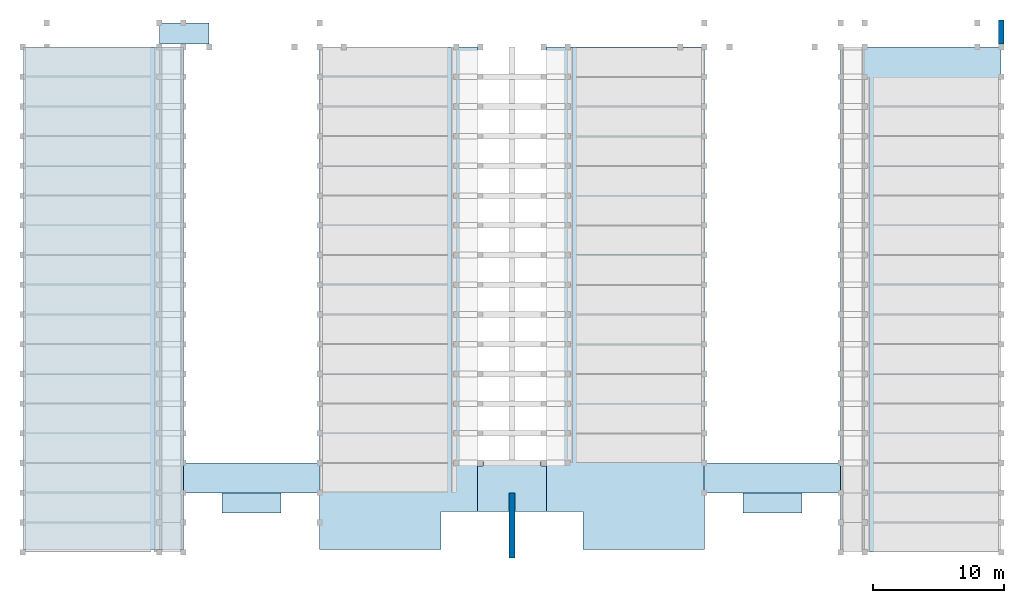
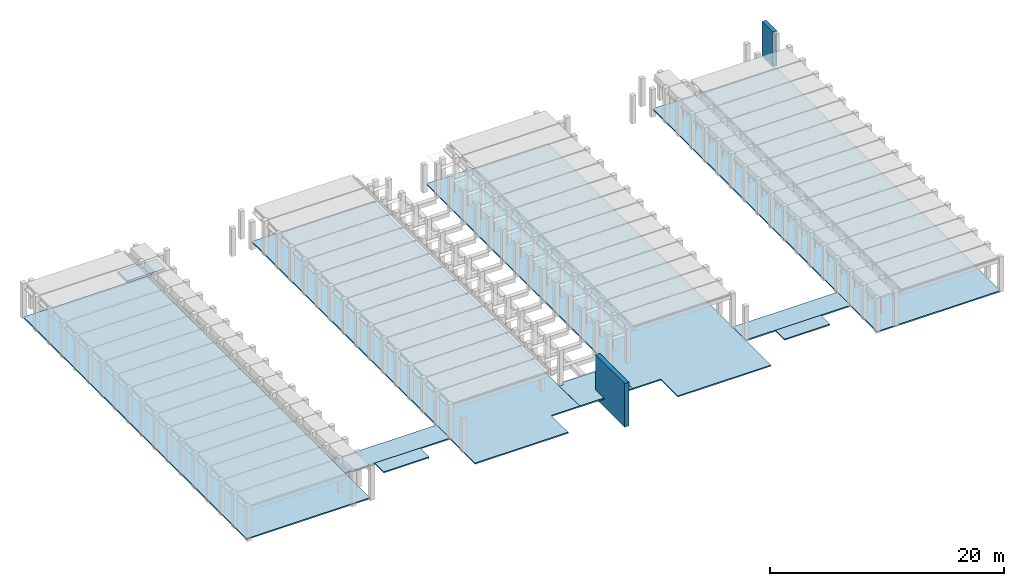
# One storey, part 15 of 18: 11 slabs, 2 walls.
"""IFC2X3 building model written with IfcOpenShell, lengths in millimetres."""

from ifc_helpers import new_model, entity, si_unit, converted_unit, derived_unit, direction, frame, frame_2d, origin, origin_2d_with_axis, place, context, subcontext, project, spatial, polyline, rectangle, outline, extrude, material, layer, layer_set, layer_usage, type_object, element, save


model = new_model("IFC2X3")

# Units and contexts
model_context = context("Model", 3, precision=0.01, world=origin(), true_north=direction((6.12303176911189e-17, 1.0)))
body_context = subcontext(model_context, "Body", "Model", "MODEL_VIEW")
ifc_project = project(units=[si_unit("LENGTHUNIT", "METRE", prefix="MILLI"), si_unit("AREAUNIT", "SQUARE_METRE"), si_unit("VOLUMEUNIT", "CUBIC_METRE"), converted_unit("PLANEANGLEUNIT", "DEGREE", entity("IfcRatioMeasure", 0.0174532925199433), si_unit("PLANEANGLEUNIT", "RADIAN"), dimensions=[0, 0, 0, 0, 0, 0, 0]), si_unit("MASSUNIT", "GRAM", prefix="KILO"), derived_unit("MASSDENSITYUNIT", [(si_unit("MASSUNIT", "GRAM", prefix="KILO"), 1), (si_unit("LENGTHUNIT", "METRE"), -3)]), derived_unit("MOMENTOFINERTIAUNIT", [(si_unit("LENGTHUNIT", "METRE"), 4)]), si_unit("TIMEUNIT", "SECOND"), si_unit("FREQUENCYUNIT", "HERTZ"), si_unit("THERMODYNAMICTEMPERATUREUNIT", "DEGREE_CELSIUS"), derived_unit("THERMALTRANSMITTANCEUNIT", [(si_unit("MASSUNIT", "GRAM", prefix="KILO"), 1), (si_unit("THERMODYNAMICTEMPERATUREUNIT", "KELVIN"), -1), (si_unit("TIMEUNIT", "SECOND"), -3)]), derived_unit("VOLUMETRICFLOWRATEUNIT", [(si_unit("LENGTHUNIT", "METRE"), 3), (si_unit("TIMEUNIT", "SECOND"), -1)]), si_unit("ELECTRICCURRENTUNIT", "AMPERE"), si_unit("ELECTRICVOLTAGEUNIT", "VOLT"), si_unit("POWERUNIT", "WATT"), si_unit("FORCEUNIT", "NEWTON", prefix="KILO"), si_unit("ILLUMINANCEUNIT", "LUX"), si_unit("LUMINOUSFLUXUNIT", "LUMEN"), si_unit("LUMINOUSINTENSITYUNIT", "CANDELA"), derived_unit("USERDEFINED", [(si_unit("MASSUNIT", "GRAM", prefix="KILO"), -1), (si_unit("LENGTHUNIT", "METRE"), -2), (si_unit("TIMEUNIT", "SECOND"), 3), (si_unit("LUMINOUSFLUXUNIT", "LUMEN"), 1)]), derived_unit("LINEARVELOCITYUNIT", [(si_unit("LENGTHUNIT", "METRE"), 1), (si_unit("TIMEUNIT", "SECOND"), -1)]), si_unit("PRESSUREUNIT", "PASCAL"), derived_unit("USERDEFINED", [(si_unit("LENGTHUNIT", "METRE"), -2), (si_unit("MASSUNIT", "GRAM", prefix="KILO"), 1), (si_unit("TIMEUNIT", "SECOND"), -2)]), derived_unit("LINEARFORCEUNIT", [(si_unit("MASSUNIT", "GRAM", prefix="KILO"), 1), (si_unit("LENGTHUNIT", "METRE"), 1), (si_unit("TIMEUNIT", "SECOND"), -2), (si_unit("LENGTHUNIT", "METRE"), -1)]), derived_unit("PLANARFORCEUNIT", [(si_unit("MASSUNIT", "GRAM", prefix="KILO"), 1), (si_unit("LENGTHUNIT", "METRE"), 1), (si_unit("TIMEUNIT", "SECOND"), -2), (si_unit("LENGTHUNIT", "METRE"), -2)])], contexts=[model_context])

# Site, building, storey
site_placement = place(None, frame((10627.5135316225, 21939.0796949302, 0.0)))
site = spatial("IfcSite", under=ifc_project, at=site_placement, Name="Default", CompositionType="ELEMENT")
building_placement = place(site_placement, origin())
building = spatial("IfcBuilding", under=site, at=building_placement, CompositionType="ELEMENT")
storey_placement = place(building_placement, frame((0.0, 0.0, 3660.0)))
storey = spatial("IfcBuildingStorey", under=building, at=storey_placement, Name="R+1", CompositionType="ELEMENT", Elevation=3660.0)

# Slabs
ifc_material_1 = material(Name="Polyurethane FoamYellowish")
ifc_layer_1 = layer(ifc_material_1, 30.0)
ifc_material_2 = material(Name="Concrete, Cast-in-Place - C15")
ifc_layer_2 = layer(ifc_material_2, 100.0)
ifc_layer_set_1 = layer_set([ifc_layer_1, ifc_layer_2], Name="Floor:PlancherChauffant130Jaune")
ifc_layer_usage_1 = layer_usage(ifc_layer_set_1, "AXIS3", "POSITIVE", 0.0)
slab_type_1 = type_object("IfcSlabType", Name="Floor:PlancherChauffant130Jaune", PredefinedType="FLOOR", material=ifc_layer_set_1)
slab_1_placement = place(storey_placement, origin())
element("IfcSlab", 1, at=slab_1_placement, inside=storey, type_object=slab_type_1, material=ifc_layer_usage_1, Name="Floor:PlancherChauffant130Jaune", ObjectType="Floor:PlancherChauffant130Jaune", PredefinedType="FLOOR", context=body_context, shape_type="SweptSolid", body=[
    extrude(rectangle(XDim=38205.0, YDim=12204.9999999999, at=origin_2d_with_axis()), frame((-4525.01353162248, -2621.57969493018, 0.0), z_axis=(0.0, 0.0, -1.0), x_axis=(0.0, 1.0, 0.0)), (0.0, 0.0, 1.0), 130.0),
])
ifc_layer_usage_2 = layer_usage(ifc_layer_set_1, "AXIS3", "POSITIVE", 0.0)
slab_type_2 = type_object("IfcSlabType", Name="Floor:PlancherChauffant130Jaune", PredefinedType="FLOOR", material=ifc_layer_set_1)
slab_2_placement = place(storey_placement, origin())
element("IfcSlab", 2, at=slab_2_placement, inside=storey, type_object=slab_type_2, material=ifc_layer_usage_2, Name="Floor:PlancherChauffant130Jaune", ObjectType="Floor:PlancherChauffant130Jaune", PredefinedType="FLOOR", context=body_context, shape_type="SweptSolid", body=[
    extrude(outline(polyline([(-2686.55688316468, -2618.0), (785.443108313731, -2618.0), (785.443108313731, -2190.0), (1115.44310831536, -2190.0), (1115.44310831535, 2190.0), (785.670666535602, 2190.0), (785.6706665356, 2618.0), (-2686.55688316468, 2618.0), (-2686.55688316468, -2618.0)])), frame((26577.4864683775, -16159.7503614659, 0.0), z_axis=(0.0, 0.0, -1.0), x_axis=(0.0, 1.0, 0.0)), (0.0, 0.0, 1.0), 130.0),
])
ifc_layer_usage_3 = layer_usage(ifc_layer_set_1, "AXIS3", "POSITIVE", 0.0)
slab_type_3 = type_object("IfcSlabType", Name="Floor:PlancherChauffant130Jaune", PredefinedType="FLOOR", material=ifc_layer_set_1)
slab_3_placement = place(storey_placement, origin())
element("IfcSlab", 3, at=slab_3_placement, inside=storey, type_object=slab_type_3, material=ifc_layer_usage_3, Name="Floor:PlancherChauffant130Jaune", ObjectType="Floor:PlancherChauffant130Jaune", PredefinedType="FLOOR", context=body_context, shape_type="SweptSolid", body=[
    extrude(rectangle(XDim=2280.00000000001, YDim=10380.0000000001, at=frame_2d((-1.13686837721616e-12, 0.0), x_axis=(1.0, 0.0))), frame((6772.48646837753, -16299.0796949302, 0.0), z_axis=(0.0, 0.0, -1.0), x_axis=(0.0, 1.0, 0.0)), (0.0, 0.0, 1.0), 130.0),
])
ifc_layer_usage_4 = layer_usage(ifc_layer_set_1, "AXIS3", "POSITIVE", 0.0)
slab_type_4 = type_object("IfcSlabType", Name="Floor:PlancherChauffant130Jaune", PredefinedType="FLOOR", material=ifc_layer_set_1)
slab_4_placement = place(storey_placement, origin())
element("IfcSlab", 4, at=slab_4_placement, inside=storey, type_object=slab_type_4, material=ifc_layer_usage_4, Name="Floor:PlancherChauffant130Jaune", ObjectType="Floor:PlancherChauffant130Jaune", PredefinedType="FLOOR", context=body_context, shape_type="SweptSolid", body=[
    extrude(rectangle(XDim=2260.00000000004, YDim=10380.0, at=frame_2d((-1.02318153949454e-12, 0.0), x_axis=(1.0, 0.0))), frame((46382.4864683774, -16289.0796949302, 0.0), z_axis=(0.0, 0.0, -1.0), x_axis=(0.0, 1.0, 0.0)), (0.0, 0.0, 1.0), 130.0),
])
ifc_layer_usage_5 = layer_usage(ifc_layer_set_1, "AXIS3", "POSITIVE", 0.0)
slab_type_5 = type_object("IfcSlabType", Name="Floor:PlancherChauffant130Jaune", PredefinedType="FLOOR", material=ifc_layer_set_1)
slab_5_placement = place(storey_placement, origin())
element("IfcSlab", 5, at=slab_5_placement, inside=storey, type_object=slab_type_5, material=ifc_layer_usage_5, Name="Floor:PlancherChauffant130Jaune", ObjectType="Floor:PlancherChauffant130Jaune", PredefinedType="FLOOR", context=body_context, shape_type="SweptSolid", body=[
    extrude(rectangle(XDim=1531.72056237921, YDim=4475.00532578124, at=frame_2d((-1.08002495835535e-12, 0.0), x_axis=(1.0, 0.0))), frame((6767.56751412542, -18204.9399761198, 0.0), z_axis=(0.0, 0.0, -1.0), x_axis=(0.0, 1.0, 0.0)), (0.0, 0.0, 1.0), 130.0),
])
ifc_layer_usage_6 = layer_usage(ifc_layer_set_1, "AXIS3", "POSITIVE", 0.0)
slab_type_6 = type_object("IfcSlabType", Name="Floor:PlancherChauffant130Jaune", PredefinedType="FLOOR", material=ifc_layer_set_1)
slab_6_placement = place(storey_placement, origin())
element("IfcSlab", 6, at=slab_6_placement, inside=storey, type_object=slab_type_6, material=ifc_layer_usage_6, Name="Floor:PlancherChauffant130Jaune", ObjectType="Floor:PlancherChauffant130Jaune", PredefinedType="FLOOR", context=body_context, shape_type="SweptSolid", body=[
    extrude(rectangle(XDim=1551.72056237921, YDim=4475.00532578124, at=frame_2d((-2.1600499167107e-12, 0.0), x_axis=(1.0, 0.0))), frame((46387.4054226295, -18194.9399761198, 0.0), z_axis=(0.0, 0.0, -1.0), x_axis=(0.0, 1.0, 0.0)), (0.0, 0.0, 1.0), 130.0),
])
ifc_layer_usage_7 = layer_usage(ifc_layer_set_1, "AXIS3", "POSITIVE", 0.0)
slab_type_7 = type_object("IfcSlabType", Name="Floor:PlancherChauffant130Jaune", PredefinedType="FLOOR", material=ifc_layer_set_1)
slab_7_placement = place(storey_placement, origin())
element("IfcSlab", 7, at=slab_7_placement, inside=storey, type_object=slab_type_7, material=ifc_layer_usage_7, Name="Floor:PlancherChauffant130Jaune", ObjectType="Floor:PlancherChauffant130Jaune", PredefinedType="FLOOR", context=body_context, shape_type="SweptSolid", body=[
    extrude(outline(polyline([(-10807.8136787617, -4935.0), (24513.9068393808, -4935.0), (24513.9068393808, 7075.0), (-13706.0931606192, 7075.0), (-13706.0931606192, -2140.0), (-10807.8136787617, -2140.0), (-10807.8136787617, -4935.0)])), frame((34132.4864683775, -8032.98653431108, 0.0), z_axis=(0.0, 0.0, -1.0), x_axis=(0.0, 1.0, 0.0)), (0.0, 0.0, 1.0), 130.0),
])
ifc_layer_usage_8 = layer_usage(ifc_layer_set_1, "AXIS3", "POSITIVE", 0.0)
slab_type_8 = type_object("IfcSlabType", Name="Floor:PlancherChauffant130Jaune", PredefinedType="FLOOR", material=ifc_layer_set_1)
slab_8_placement = place(storey_placement, origin())
element("IfcSlab", 8, at=slab_8_placement, inside=storey, type_object=slab_type_8, material=ifc_layer_usage_8, Name="Floor:PlancherChauffant130Jaune", ObjectType="Floor:PlancherChauffant130Jaune", PredefinedType="FLOOR", context=body_context, shape_type="SweptSolid", body=[
    extrude(rectangle(XDim=38420.0000000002, YDim=12204.9999999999, at=origin_2d_with_axis()), frame((57679.9864683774, -2729.07969493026, 0.0), z_axis=(0.0, 0.0, -1.0), x_axis=(0.0, 1.0, 0.0)), (0.0, 0.0, 1.0), 130.0),
])
ifc_layer_usage_9 = layer_usage(ifc_layer_set_1, "AXIS3", "POSITIVE", 0.0)
slab_type_9 = type_object("IfcSlabType", Name="Floor:PlancherChauffant130Jaune", PredefinedType="FLOOR", material=ifc_layer_set_1)
slab_9_placement = place(storey_placement, origin())
element("IfcSlab", 9, at=slab_9_placement, inside=storey, type_object=slab_type_9, material=ifc_layer_usage_9, Name="Floor:PlancherChauffant130Jaune", ObjectType="Floor:PlancherChauffant130Jaune", PredefinedType="FLOOR", context=body_context, shape_type="SweptSolid", body=[
    extrude(rectangle(XDim=38205.0, YDim=12204.9999999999, at=origin_2d_with_axis()), frame((-4525.01353162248, -2621.57969493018, 0.0), z_axis=(0.0, 0.0, -1.0), x_axis=(0.0, 1.0, 0.0)), (0.0, 0.0, 1.0), 130.0),
])
ifc_layer_usage_10 = layer_usage(ifc_layer_set_1, "AXIS3", "POSITIVE", 0.0)
slab_type_10 = type_object("IfcSlabType", Name="Floor:PlancherChauffant130Jaune", PredefinedType="FLOOR", material=ifc_layer_set_1)
slab_10_placement = place(storey_placement, origin())
element("IfcSlab", 10, at=slab_10_placement, inside=storey, type_object=slab_type_10, material=ifc_layer_usage_10, Name="Floor:PlancherChauffant130Jaune", ObjectType="Floor:PlancherChauffant130Jaune", PredefinedType="FLOOR", context=body_context, shape_type="SweptSolid", body=[
    extrude(outline(polyline([(-13706.0931606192, -7075.0), (24513.9068393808, -7075.0), (24513.9068393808, 4935.0), (-10807.8136787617, 4935.0), (-10807.8136787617, 2140.0), (-13706.0931606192, 2140.0), (-13706.0931606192, -7075.0)])), frame((19022.4864683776, -8032.98653431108, 0.0), z_axis=(0.0, 0.0, -1.0), x_axis=(0.0, 1.0, 0.0)), (0.0, 0.0, 1.0), 130.0),
])
ifc_layer_3 = layer(ifc_material_2, 211.0)
ifc_layer_set_2 = layer_set([ifc_layer_3], Name="Floor:Floor-Upper_160mmConc-CorusComFlor51")
ifc_layer_usage_11 = layer_usage(ifc_layer_set_2, "AXIS3", "POSITIVE", 0.0)
slab_type_11 = type_object("IfcSlabType", Name="Floor:Floor-Upper_160mmConc-CorusComFlor51", PredefinedType="FLOOR", material=ifc_layer_set_2)
slab_11_placement = place(storey_placement, origin())
element("IfcSlab", 11, at=slab_11_placement, inside=storey, type_object=slab_type_11, material=ifc_layer_usage_11, Name="Floor:Floor-Upper_160mmConc-CorusComFlor51", ObjectType="Floor:Floor-Upper_160mmConc-CorusComFlor51", PredefinedType="FLOOR", context=body_context, shape_type="SweptSolid", body=[
    extrude(rectangle(XDim=1615.00000000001, YDim=3793.0, at=frame_2d((-1.08002495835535e-12, 0.0), x_axis=(1.0, 0.0))), frame((1648.98646837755, 17503.4203050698, 0.0), z_axis=(0.0, 0.0, -1.0), x_axis=(0.0, 1.0, 0.0)), (0.0, 0.0, 1.0), 211.0),
])

# Walls
ifc_material_3 = material(Name="Concrete, Precast Smooth, Light Grey")
ifc_layer_4 = layer(ifc_material_3, 430.0)
ifc_layer_set_3 = layer_set([ifc_layer_4], Name="Basic Wall:Mur Facade Fille 0 430mm")
ifc_layer_usage_12 = layer_usage(ifc_layer_set_3, "AXIS2", "NEGATIVE", 215.0)
wall_type = type_object("IfcWallType", Name="Basic Wall:Mur Facade Fille 0 430mm", PredefinedType="STANDARD", material=ifc_layer_set_3)
wall_1_placement = place(storey_placement, frame((26577.4864683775, -17419.0796949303, -930.421276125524), z_axis=(0.0, 0.0, 1.0), x_axis=(0.0, -1.0, 0.0)))
element("IfcWallStandardCase", 12, at=wall_1_placement, inside=storey, type_object=wall_type, material=ifc_layer_usage_12, Name="Basic Wall:Mur Facade Fille 0 430mm", ObjectType="Basic Wall:Mur Facade Fille 0 430mm", context=body_context, shape_type="SweptSolid", body=[
    extrude(rectangle(XDim=4960.37050963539, YDim=429.999999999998, at=frame_2d((2480.18525481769, 0.0), x_axis=(-1.0, 0.0))), origin(), (0.0, 0.0, 1.0), 4590.42127612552),
])
ifc_layer_usage_13 = layer_usage(ifc_layer_set_3, "AXIS2", "POSITIVE", -215.0)
wall_2_placement = place(storey_placement, frame((63782.4864683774, 16695.9203050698, 0.0), z_axis=(0.0, 0.0, 1.0), x_axis=(0.0, 1.0, 0.0)))
element("IfcWallStandardCase", 13, at=wall_2_placement, inside=storey, type_object=wall_type, material=ifc_layer_usage_13, Name="Basic Wall:Mur Facade Fille 0 430mm", ObjectType="Basic Wall:Mur Facade Fille 0 430mm", context=body_context, shape_type="SweptSolid", body=[
    extrude(rectangle(XDim=1843.33162842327, YDim=430.000000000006, at=frame_2d((921.665814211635, -1.08002495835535e-12), x_axis=(-1.0, 0.0))), origin(), (0.0, 0.0, 1.0), 3660.0),
])

save(model, "model.ifc")
